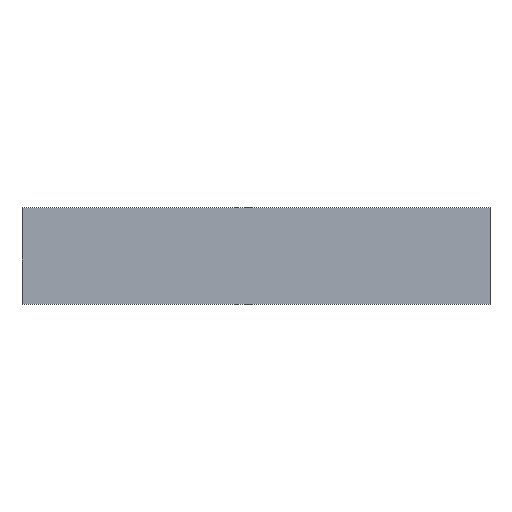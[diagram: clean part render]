
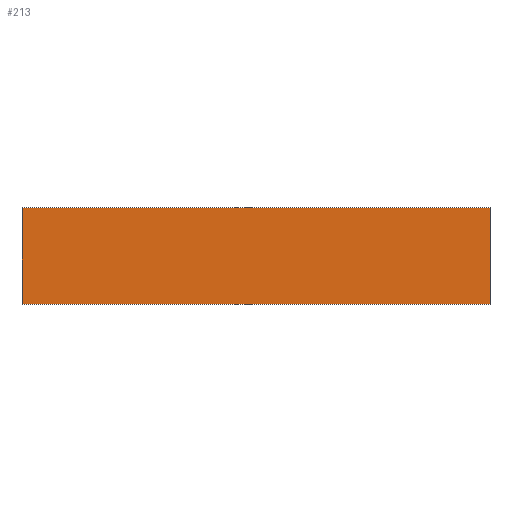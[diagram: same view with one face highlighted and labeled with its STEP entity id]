
A CAD part, top view. The second image highlights one B-rep face of the part: STEP entity #213.
In plain terms, the highlighted planar face has unit normal (0, 0, 1).
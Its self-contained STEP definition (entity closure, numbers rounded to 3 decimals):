
#24 = VERTEX_POINT('',#25);
#25 = CARTESIAN_POINT('',(-82.,-13.,24.));
#32 = PLANE('',#33);
#33 = AXIS2_PLACEMENT_3D('',#34,#35,#36);
#34 = CARTESIAN_POINT('',(-82.,-13.,22.));
#35 = DIRECTION('',(1.,0.,0.));
#36 = DIRECTION('',(0.,0.,1.));
#44 = PLANE('',#45);
#45 = AXIS2_PLACEMENT_3D('',#46,#47,#48);
#46 = CARTESIAN_POINT('',(-82.,-13.,22.));
#47 = DIRECTION('',(0.,1.,0.));
#48 = DIRECTION('',(0.,0.,1.));
#85 = VERTEX_POINT('',#86);
#86 = CARTESIAN_POINT('',(-82.,1.,24.));
#100 = PLANE('',#101);
#101 = AXIS2_PLACEMENT_3D('',#102,#103,#104);
#102 = CARTESIAN_POINT('',(-82.,1.,22.));
#103 = DIRECTION('',(0.,1.,0.));
#104 = DIRECTION('',(0.,0.,1.));
#112 = EDGE_CURVE('',#24,#85,#113,.T.);
#113 = SURFACE_CURVE('',#114,(#118,#125),.PCURVE_S1.);
#114 = LINE('',#115,#116);
#115 = CARTESIAN_POINT('',(-82.,-13.,24.));
#116 = VECTOR('',#117,1.);
#117 = DIRECTION('',(0.,1.,0.));
#118 = PCURVE('',#32,#119);
#119 = DEFINITIONAL_REPRESENTATION('',(#120),#124);
#120 = LINE('',#121,#122);
#121 = CARTESIAN_POINT('',(2.,0.));
#122 = VECTOR('',#123,1.);
#123 = DIRECTION('',(0.,-1.));
#124 = ( GEOMETRIC_REPRESENTATION_CONTEXT(2) 
PARAMETRIC_REPRESENTATION_CONTEXT() REPRESENTATION_CONTEXT('2D SPACE',''
  ) );
#125 = PCURVE('',#126,#131);
#126 = PLANE('',#127);
#127 = AXIS2_PLACEMENT_3D('',#128,#129,#130);
#128 = CARTESIAN_POINT('',(-82.,-13.,24.));
#129 = DIRECTION('',(0.,0.,1.));
#130 = DIRECTION('',(1.,0.,0.));
#131 = DEFINITIONAL_REPRESENTATION('',(#132),#136);
#132 = LINE('',#133,#134);
#133 = CARTESIAN_POINT('',(0.,0.));
#134 = VECTOR('',#135,1.);
#135 = DIRECTION('',(0.,1.));
#136 = ( GEOMETRIC_REPRESENTATION_CONTEXT(2) 
PARAMETRIC_REPRESENTATION_CONTEXT() REPRESENTATION_CONTEXT('2D SPACE',''
  ) );
#165 = EDGE_CURVE('',#24,#166,#168,.T.);
#166 = VERTEX_POINT('',#167);
#167 = CARTESIAN_POINT('',(-14.,-13.,24.));
#168 = SURFACE_CURVE('',#169,(#173,#180),.PCURVE_S1.);
#169 = LINE('',#170,#171);
#170 = CARTESIAN_POINT('',(-82.,-13.,24.));
#171 = VECTOR('',#172,1.);
#172 = DIRECTION('',(1.,0.,0.));
#173 = PCURVE('',#44,#174);
#174 = DEFINITIONAL_REPRESENTATION('',(#175),#179);
#175 = LINE('',#176,#177);
#176 = CARTESIAN_POINT('',(2.,0.));
#177 = VECTOR('',#178,1.);
#178 = DIRECTION('',(0.,1.));
#179 = ( GEOMETRIC_REPRESENTATION_CONTEXT(2) 
PARAMETRIC_REPRESENTATION_CONTEXT() REPRESENTATION_CONTEXT('2D SPACE',''
  ) );
#180 = PCURVE('',#126,#181);
#181 = DEFINITIONAL_REPRESENTATION('',(#182),#186);
#182 = LINE('',#183,#184);
#183 = CARTESIAN_POINT('',(0.,0.));
#184 = VECTOR('',#185,1.);
#185 = DIRECTION('',(1.,0.));
#186 = ( GEOMETRIC_REPRESENTATION_CONTEXT(2) 
PARAMETRIC_REPRESENTATION_CONTEXT() REPRESENTATION_CONTEXT('2D SPACE',''
  ) );
#202 = PLANE('',#203);
#203 = AXIS2_PLACEMENT_3D('',#204,#205,#206);
#204 = CARTESIAN_POINT('',(-14.,-13.,22.));
#205 = DIRECTION('',(1.,0.,0.));
#206 = DIRECTION('',(0.,0.,1.));
#213 = ADVANCED_FACE('',(#214),#126,.T.);
#214 = FACE_BOUND('',#215,.T.);
#215 = EDGE_LOOP('',(#216,#217,#218,#241));
#216 = ORIENTED_EDGE('',*,*,#112,.F.);
#217 = ORIENTED_EDGE('',*,*,#165,.T.);
#218 = ORIENTED_EDGE('',*,*,#219,.T.);
#219 = EDGE_CURVE('',#166,#220,#222,.T.);
#220 = VERTEX_POINT('',#221);
#221 = CARTESIAN_POINT('',(-14.,1.,24.));
#222 = SURFACE_CURVE('',#223,(#227,#234),.PCURVE_S1.);
#223 = LINE('',#224,#225);
#224 = CARTESIAN_POINT('',(-14.,-13.,24.));
#225 = VECTOR('',#226,1.);
#226 = DIRECTION('',(0.,1.,0.));
#227 = PCURVE('',#126,#228);
#228 = DEFINITIONAL_REPRESENTATION('',(#229),#233);
#229 = LINE('',#230,#231);
#230 = CARTESIAN_POINT('',(68.,0.));
#231 = VECTOR('',#232,1.);
#232 = DIRECTION('',(0.,1.));
#233 = ( GEOMETRIC_REPRESENTATION_CONTEXT(2) 
PARAMETRIC_REPRESENTATION_CONTEXT() REPRESENTATION_CONTEXT('2D SPACE',''
  ) );
#234 = PCURVE('',#202,#235);
#235 = DEFINITIONAL_REPRESENTATION('',(#236),#240);
#236 = LINE('',#237,#238);
#237 = CARTESIAN_POINT('',(2.,0.));
#238 = VECTOR('',#239,1.);
#239 = DIRECTION('',(0.,-1.));
#240 = ( GEOMETRIC_REPRESENTATION_CONTEXT(2) 
PARAMETRIC_REPRESENTATION_CONTEXT() REPRESENTATION_CONTEXT('2D SPACE',''
  ) );
#241 = ORIENTED_EDGE('',*,*,#242,.F.);
#242 = EDGE_CURVE('',#85,#220,#243,.T.);
#243 = SURFACE_CURVE('',#244,(#248,#255),.PCURVE_S1.);
#244 = LINE('',#245,#246);
#245 = CARTESIAN_POINT('',(-82.,1.,24.));
#246 = VECTOR('',#247,1.);
#247 = DIRECTION('',(1.,0.,0.));
#248 = PCURVE('',#126,#249);
#249 = DEFINITIONAL_REPRESENTATION('',(#250),#254);
#250 = LINE('',#251,#252);
#251 = CARTESIAN_POINT('',(0.,14.));
#252 = VECTOR('',#253,1.);
#253 = DIRECTION('',(1.,0.));
#254 = ( GEOMETRIC_REPRESENTATION_CONTEXT(2) 
PARAMETRIC_REPRESENTATION_CONTEXT() REPRESENTATION_CONTEXT('2D SPACE',''
  ) );
#255 = PCURVE('',#100,#256);
#256 = DEFINITIONAL_REPRESENTATION('',(#257),#261);
#257 = LINE('',#258,#259);
#258 = CARTESIAN_POINT('',(2.,0.));
#259 = VECTOR('',#260,1.);
#260 = DIRECTION('',(0.,1.));
#261 = ( GEOMETRIC_REPRESENTATION_CONTEXT(2) 
PARAMETRIC_REPRESENTATION_CONTEXT() REPRESENTATION_CONTEXT('2D SPACE',''
  ) );
